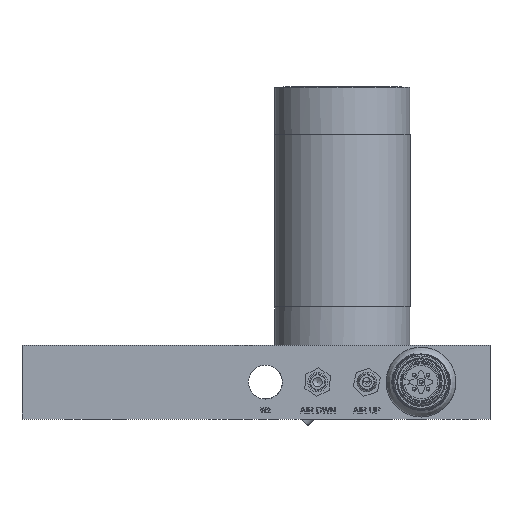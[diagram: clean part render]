
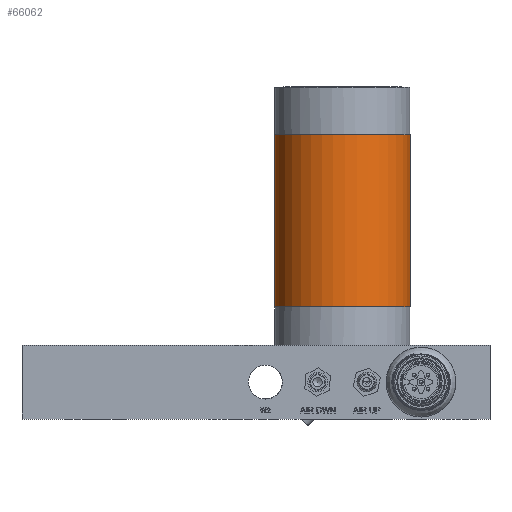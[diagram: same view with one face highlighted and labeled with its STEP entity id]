
A CAD part, front view. The second image highlights one B-rep face of the part: STEP entity #66062.
In plain terms, the highlighted cylindrical face has radius 17.59 mm (diameter 35.179 mm), a full revolution.
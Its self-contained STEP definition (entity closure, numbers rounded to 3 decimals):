
#4177=CYLINDRICAL_SURFACE('',#71998,17.59);
#7514=FACE_OUTER_BOUND('',#11684,.T.);
#11684=EDGE_LOOP('',(#54302,#54303,#54304,#54305));
#19635=CIRCLE('',#71999,17.59);
#19636=CIRCLE('',#72000,17.59);
#21228=LINE('',#177627,#23374);
#23374=VECTOR('',#84075,17.59);
#28565=VERTEX_POINT('',#177624);
#28566=VERTEX_POINT('',#177626);
#37414=EDGE_CURVE('',#28565,#28565,#19635,.T.);
#37415=EDGE_CURVE('',#28565,#28566,#21228,.T.);
#37416=EDGE_CURVE('',#28566,#28566,#19636,.T.);
#54302=ORIENTED_EDGE('',*,*,#37414,.T.);
#54303=ORIENTED_EDGE('',*,*,#37415,.T.);
#54304=ORIENTED_EDGE('',*,*,#37416,.F.);
#54305=ORIENTED_EDGE('',*,*,#37415,.F.);
#66062=ADVANCED_FACE('',(#7514),#4177,.T.);
#71998=AXIS2_PLACEMENT_3D('',#177623,#84071,#84072);
#71999=AXIS2_PLACEMENT_3D('',#177625,#84073,#84074);
#72000=AXIS2_PLACEMENT_3D('',#177628,#84076,#84077);
#84071=DIRECTION('center_axis',(0.,0.,
1.));
#84072=DIRECTION('ref_axis',(-0.999,-0.044,0.));
#84073=DIRECTION('center_axis',(0.,0.,
-1.));
#84074=DIRECTION('ref_axis',(-0.999,-0.044,0.));
#84075=DIRECTION('',(0.,0.,-1.));
#84076=DIRECTION('center_axis',(0.,0.,
-1.));
#84077=DIRECTION('ref_axis',(-0.999,-0.044,0.));
#177623=CARTESIAN_POINT('Origin',(0.,0.,
28.892));
#177624=CARTESIAN_POINT('',(17.573,0.77,73.342));
#177625=CARTESIAN_POINT('Origin',(0.,0.,
73.342));
#177626=CARTESIAN_POINT('',(17.573,0.77,28.892));
#177627=CARTESIAN_POINT('',(17.573,0.77,28.892));
#177628=CARTESIAN_POINT('Origin',(0.,0.,
28.892));
